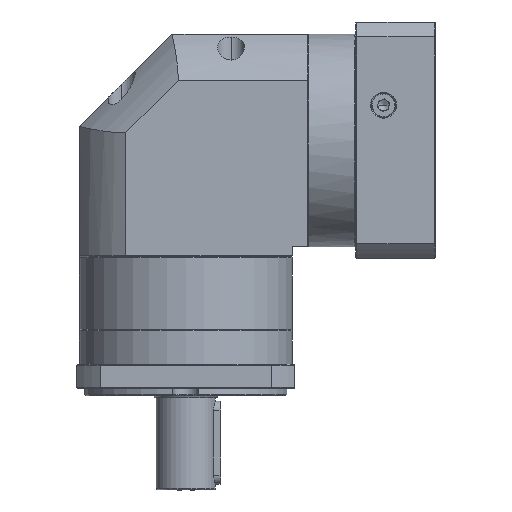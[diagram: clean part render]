
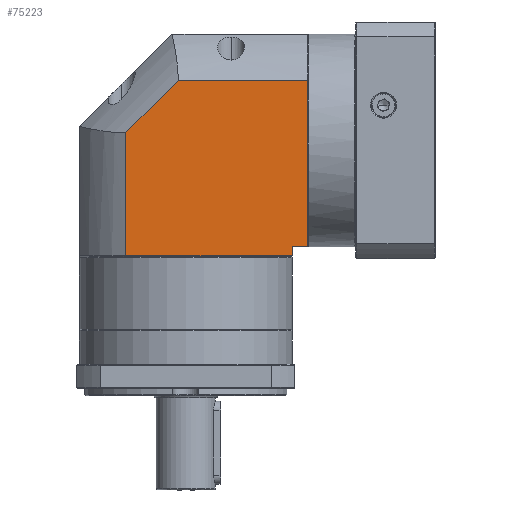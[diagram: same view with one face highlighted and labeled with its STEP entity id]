
A CAD part, front view. The second image highlights one B-rep face of the part: STEP entity #75223.
In plain terms, the highlighted planar face has unit normal (0, -1, 0).
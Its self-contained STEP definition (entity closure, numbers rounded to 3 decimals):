
#4533 = LINE ( 'NONE', #7413, #124545 ) ;
#5701 = ORIENTED_EDGE ( 'NONE', *, *, #30068, .F. ) ;
#6521 = VECTOR ( 'NONE', #128152, 1000. ) ;
#7413 = CARTESIAN_POINT ( 'NONE',  ( 18.153, 27.021, 32.308 ) ) ;
#10727 = CARTESIAN_POINT ( 'NONE',  ( 18.153, 27.021, 32.308 ) ) ;
#13402 = ORIENTED_EDGE ( 'NONE', *, *, #17084, .F. ) ;
#13825 = VERTEX_POINT ( 'NONE', #10727 ) ;
#14306 = CARTESIAN_POINT ( 'NONE',  ( 116.453, 27.021, 60.646 ) ) ;
#14417 = LINE ( 'NONE', #42185, #96952 ) ;
#17084 = EDGE_CURVE ( 'NONE', #76975, #13825, #81263, .T. ) ;
#17599 = CARTESIAN_POINT ( 'NONE',  ( 18.153, 27.021, -34.253 ) ) ;
#20934 = VECTOR ( 'NONE', #72605, 1000. ) ;
#21218 = EDGE_CURVE ( 'NONE', #13825, #42755, #4533, .T. ) ;
#21356 = VERTEX_POINT ( 'NONE', #104195 ) ;
#24723 = CARTESIAN_POINT ( 'NONE',  ( 46.491, 27.021, 60.646 ) ) ;
#25817 = VERTEX_POINT ( 'NONE', #14306 ) ;
#27567 = ORIENTED_EDGE ( 'NONE', *, *, #133237, .F. ) ;
#28190 = CARTESIAN_POINT ( 'NONE',  ( 108.053, 27.021, -29.253 ) ) ;
#30068 = EDGE_CURVE ( 'NONE', #25817, #21356, #14417, .T. ) ;
#30231 = DIRECTION ( 'NONE',  ( -1., 0., 0. ) ) ;
#30957 = DIRECTION ( 'NONE',  ( 0., 0., -1. ) ) ;
#34237 = CARTESIAN_POINT ( 'NONE',  ( 18.153, 27.021, -40.753 ) ) ;
#39791 = ORIENTED_EDGE ( 'NONE', *, *, #127349, .F. ) ;
#39938 = VERTEX_POINT ( 'NONE', #28190 ) ;
#41084 = CARTESIAN_POINT ( 'NONE',  ( -6.947, 27.021, 60.646 ) ) ;
#42185 = CARTESIAN_POINT ( 'NONE',  ( 116.453, 27.021, -40.753 ) ) ;
#42539 = DIRECTION ( 'NONE',  ( 1., 0., 0. ) ) ;
#42755 = VERTEX_POINT ( 'NONE', #24723 ) ;
#43995 = DIRECTION ( 'NONE',  ( 0., 0., -1. ) ) ;
#56259 = EDGE_CURVE ( 'NONE', #71216, #76975, #118147, .T. ) ;
#56729 = VECTOR ( 'NONE', #43995, 1000. ) ;
#59307 = AXIS2_PLACEMENT_3D ( 'NONE', #62954, #104606, #42539 ) ;
#62954 = CARTESIAN_POINT ( 'NONE',  ( -6.947, 27.021, -40.753 ) ) ;
#63112 = LINE ( 'NONE', #41084, #79433 ) ;
#64848 = CARTESIAN_POINT ( 'NONE',  ( 108.053, 27.021, -40.753 ) ) ;
#71216 = VERTEX_POINT ( 'NONE', #97965 ) ;
#71313 = LINE ( 'NONE', #64848, #56729 ) ;
#72605 = DIRECTION ( 'NONE',  ( -1., 0., 0. ) ) ;
#74267 = PLANE ( 'NONE',  #59307 ) ;
#75223 = ADVANCED_FACE ( 'NONE', ( #120850 ), #74267, .F. ) ;
#76975 = VERTEX_POINT ( 'NONE', #17599 ) ;
#79433 = VECTOR ( 'NONE', #125545, 1000. ) ;
#80955 = ORIENTED_EDGE ( 'NONE', *, *, #21218, .F. ) ;
#81263 = LINE ( 'NONE', #34237, #6521 ) ;
#81265 = ORIENTED_EDGE ( 'NONE', *, *, #56259, .F. ) ;
#86886 = LINE ( 'NONE', #133670, #101391 ) ;
#93850 = CARTESIAN_POINT ( 'NONE',  ( -6.947, 27.021, -34.253 ) ) ;
#96952 = VECTOR ( 'NONE', #30957, 1000. ) ;
#97965 = CARTESIAN_POINT ( 'NONE',  ( 108.053, 27.021, -34.253 ) ) ;
#101391 = VECTOR ( 'NONE', #30231, 1000. ) ;
#104195 = CARTESIAN_POINT ( 'NONE',  ( 116.453, 27.021, -29.253 ) ) ;
#104606 = DIRECTION ( 'NONE',  ( 0., 1., 0. ) ) ;
#107032 = EDGE_LOOP ( 'NONE', ( #27567, #39791, #5701, #129439, #80955, #13402, #81265 ) ) ;
#111071 = EDGE_CURVE ( 'NONE', #42755, #25817, #63112, .T. ) ;
#118147 = LINE ( 'NONE', #93850, #20934 ) ;
#120850 = FACE_OUTER_BOUND ( 'NONE', #107032, .T. ) ;
#122479 = DIRECTION ( 'NONE',  ( 0.707, 0., 0.707 ) ) ;
#124545 = VECTOR ( 'NONE', #122479, 1000. ) ;
#125545 = DIRECTION ( 'NONE',  ( 1., 0., 0. ) ) ;
#127349 = EDGE_CURVE ( 'NONE', #21356, #39938, #86886, .T. ) ;
#128152 = DIRECTION ( 'NONE',  ( 0., 0., 1. ) ) ;
#129439 = ORIENTED_EDGE ( 'NONE', *, *, #111071, .F. ) ;
#133237 = EDGE_CURVE ( 'NONE', #39938, #71216, #71313, .T. ) ;
#133670 = CARTESIAN_POINT ( 'NONE',  ( -6.947, 27.021, -29.253 ) ) ;
